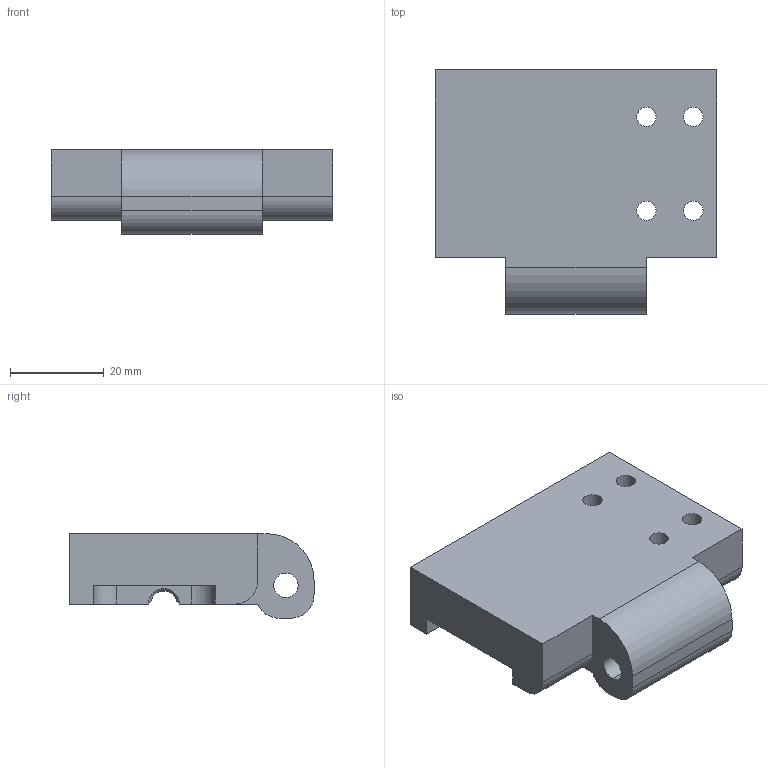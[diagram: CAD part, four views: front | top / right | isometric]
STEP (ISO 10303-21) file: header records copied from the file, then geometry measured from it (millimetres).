
FILE_DESCRIPTION (( 'STEP AP214' ), '1' );
FILE_NAME ('GZ27.06_V1奻揤輸.STEP', '2021-04-11T06:25:45', ( 'hp' ), ( '' ), 'SwSTEP 2.0', 'SolidWorks 2017', '' );
FILE_SCHEMA (( 'AUTOMOTIVE_DESIGN' ));
Length unit declared in the file: millimetre
Products named in the file (1): GZ27.06_V1奻揤輸
Bounding box: 60 x 52 x 18 mm (x, y, z)
Volume: 35440.1 mm3; surface area: 10517.4 mm2
Topology: 1 solids, 1 shells, 50 faces, 134 edges, 86 vertices
Faces by surface type: cylinder 23, plane 19, cone 8
Entity records: 1739 total; most frequent: CARTESIAN_POINT 300, DIRECTION 278, ORIENTED_EDGE 264, EDGE_CURVE 132, AXIS2_PLACEMENT_3D 103, VERTEX_POINT 86, VECTOR 72, LINE 72
